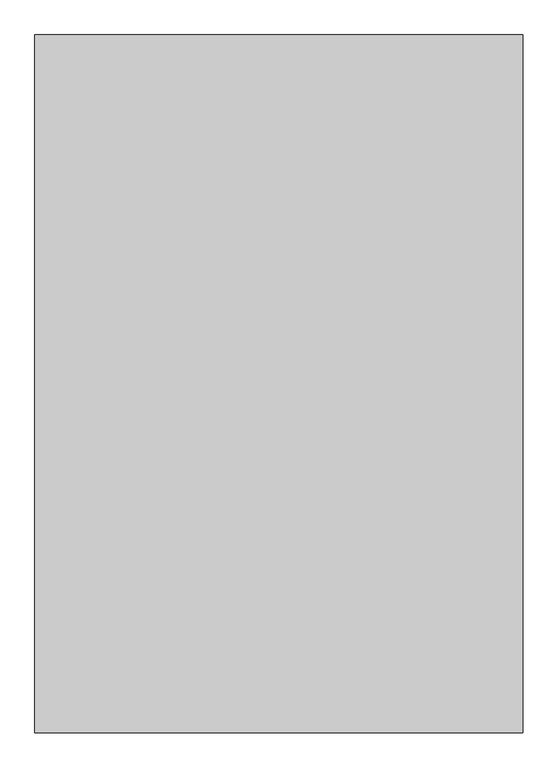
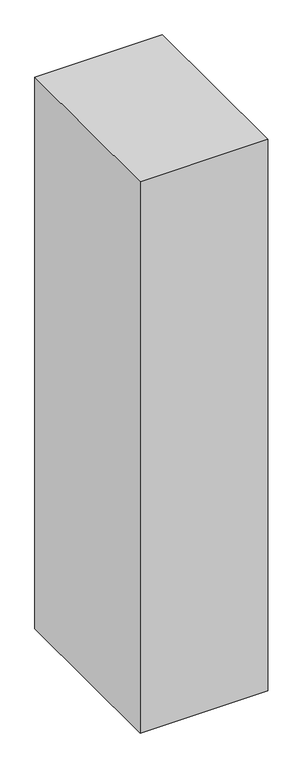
"""IFC4 building model written with IfcOpenShell, lengths in millimetres: column geometry, M_混凝土-矩形-柱 : RC柱70*100."""

from ifc_helpers import new_model, si_unit, frame, origin, place, context, project, spatial, polyline, outline, extrude, source, transform, mapped, element, save


def column_6a8302aa(model_context):
    return source(origin(), model_context, "Body", "SweptSolid", [
        extrude(outline(polyline([(350.0, 500.0), (350.0, -500.0), (-350.0, -500.0), (-350.0, 500.0), (350.0, 500.0)])), frame((0.0, 0.0, 8000.0), z_axis=(0.0, 0.0, 1.0), x_axis=(1.0, 0.0, 0.0)), (0.0, 0.0, 1.0), 3200.0),
    ])


if __name__ == "__main__":
    model = new_model("IFC4")
    model_context = context("Model", 3, world=origin())
    ifc_project = project(units=[si_unit("LENGTHUNIT", "METRE", prefix="MILLI")], contexts=[model_context])
    site = spatial("IfcSite", under=ifc_project)
    building = spatial("IfcBuilding", under=site)
    placement = place(None, origin())
    column_shape = column_6a8302aa(model_context)
    element("IfcColumn", 1, ObjectType="M_混凝土-矩形-柱 : RC柱70*100", at=placement, inside=building, context=model_context, shape_type="MappedRepresentation", body=[
        mapped(column_shape, transform((0.0, 0.0, 0.0), x_axis=(1.0, 0.0, 0.0), y_axis=(0.0, 1.0, 0.0), z_axis=(0.0, 0.0, 1.0))),
    ])
    save(model, "model.ifc")
